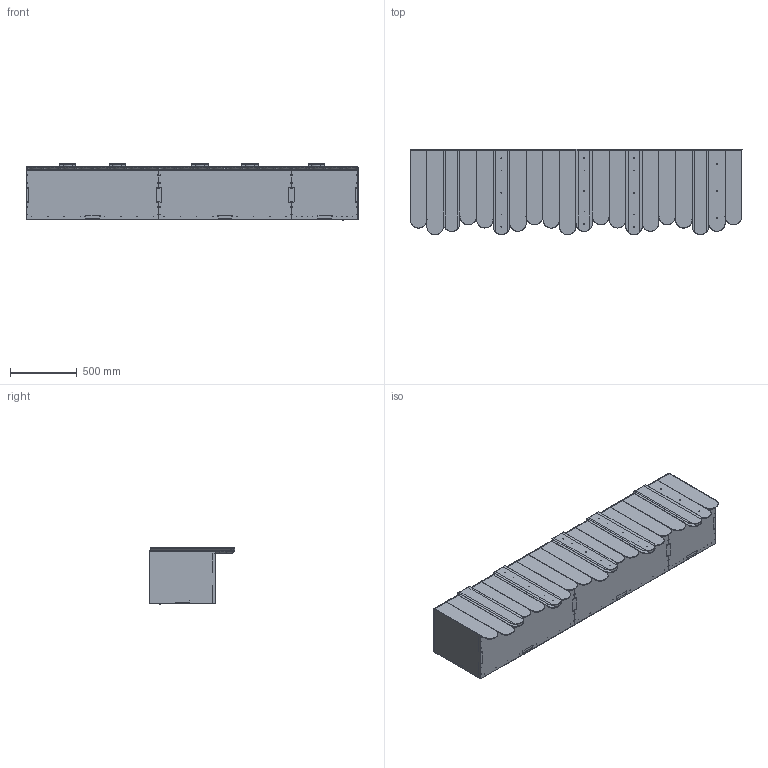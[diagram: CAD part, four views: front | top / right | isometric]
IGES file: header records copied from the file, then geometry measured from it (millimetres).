
Start section: SolidWorks IGES file using analytic representation for surfaces
Global section: file name: \\UTENTI\Dati Utenti\Tecnico\DC\2D - 3D per sito\3D\DeCastelli-3D-Xilo Console 250.igs; native system: SolidWorks 2022; preprocessor: SolidWorks 2022; author: filippo; date: 240724.135742; units: millimetre
Bounding box: 2495.56 x 642.37 x 421.1 mm (x, y, z)
Surface area: 18719266.8 mm2 (no closed solid volume)
Topology: 0 solids, 0 shells, 643 faces, 18193 edges, 18193 vertices
Faces by surface type: bspline 344, revolution 299
